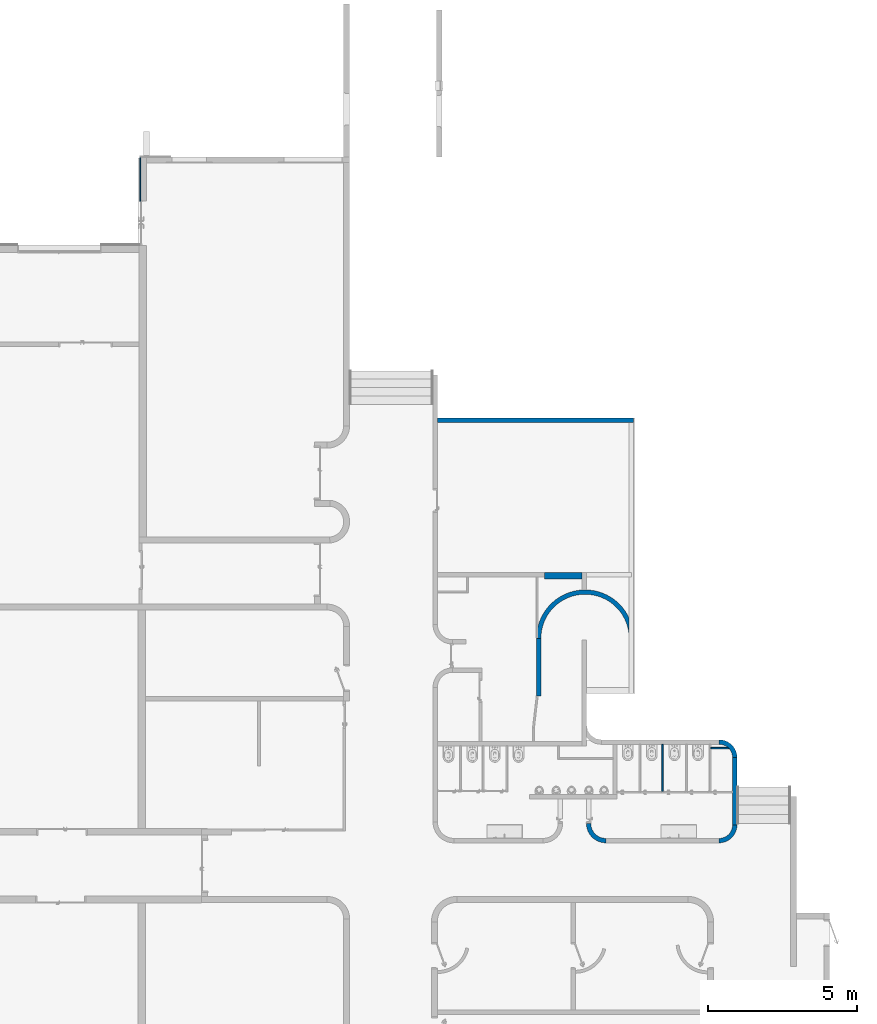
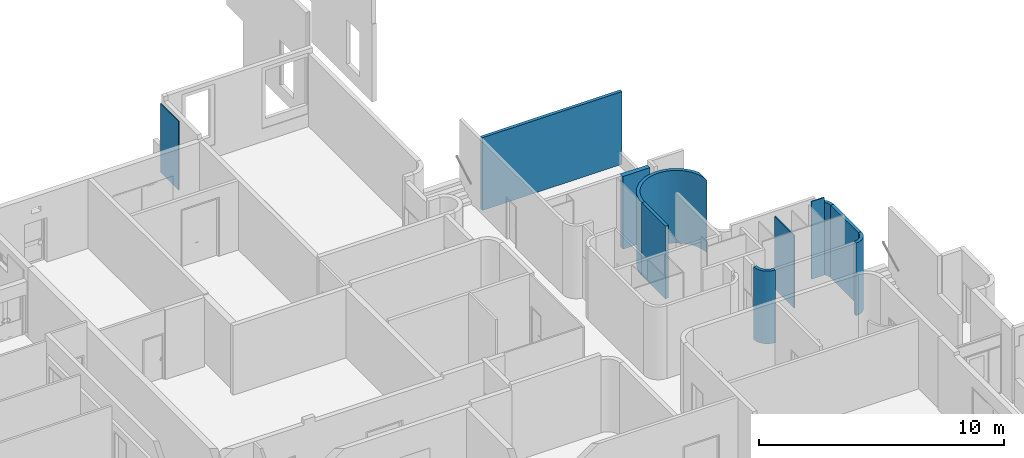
# One storey, part 7 of 9: 11 walls.
"""IFC2X3 building model written with IfcOpenShell, lengths in metres."""

from ifc_helpers import new_model, entity, si_unit, converted_unit, derived_unit, direction, frame, frame_2d, origin, place, context, subcontext, project, spatial, polyline, circle_curve, parameter, trimmed, segment, composite_curve, rectangle, outline, extrude, clip, halfspace, bounded_halfspace, material, layer, layer_set, layer_usage, type_object, element, save


model = new_model("IFC2X3")

# Units and contexts
model_context = context("Model", 3, precision=1e-05, world=origin(), true_north=direction((6.12303176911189e-17, 1.0)))
body_context = subcontext(model_context, "Body", "Model", "MODEL_VIEW")
ifc_project = project(units=[si_unit("LENGTHUNIT", "METRE"), si_unit("AREAUNIT", "SQUARE_METRE"), si_unit("VOLUMEUNIT", "CUBIC_METRE"), converted_unit("PLANEANGLEUNIT", "DEGREE", entity("IfcRatioMeasure", 0.0174532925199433), si_unit("PLANEANGLEUNIT", "RADIAN"), dimensions=[0, 0, 0, 0, 0, 0, 0]), si_unit("MASSUNIT", "GRAM", prefix="KILO"), derived_unit("MASSDENSITYUNIT", [(si_unit("MASSUNIT", "GRAM", prefix="KILO"), 1), (si_unit("LENGTHUNIT", "METRE"), -3)]), derived_unit("MOMENTOFINERTIAUNIT", [(si_unit("LENGTHUNIT", "METRE"), 4)]), si_unit("TIMEUNIT", "SECOND"), si_unit("FREQUENCYUNIT", "HERTZ"), si_unit("THERMODYNAMICTEMPERATUREUNIT", "DEGREE_CELSIUS"), derived_unit("THERMALTRANSMITTANCEUNIT", [(si_unit("MASSUNIT", "GRAM", prefix="KILO"), 1), (si_unit("THERMODYNAMICTEMPERATUREUNIT", "KELVIN"), -1), (si_unit("TIMEUNIT", "SECOND"), -3)]), derived_unit("VOLUMETRICFLOWRATEUNIT", [(si_unit("LENGTHUNIT", "METRE"), 3), (si_unit("TIMEUNIT", "SECOND"), -1)]), si_unit("ELECTRICCURRENTUNIT", "AMPERE"), si_unit("ELECTRICVOLTAGEUNIT", "VOLT"), si_unit("POWERUNIT", "WATT"), si_unit("FORCEUNIT", "NEWTON", prefix="KILO"), si_unit("ILLUMINANCEUNIT", "LUX"), si_unit("LUMINOUSFLUXUNIT", "LUMEN"), si_unit("LUMINOUSINTENSITYUNIT", "CANDELA"), derived_unit("USERDEFINED", [(si_unit("MASSUNIT", "GRAM", prefix="KILO"), -1), (si_unit("LENGTHUNIT", "METRE"), -2), (si_unit("TIMEUNIT", "SECOND"), 3), (si_unit("LUMINOUSFLUXUNIT", "LUMEN"), 1)]), derived_unit("LINEARVELOCITYUNIT", [(si_unit("LENGTHUNIT", "METRE"), 1), (si_unit("TIMEUNIT", "SECOND"), -1)]), si_unit("PRESSUREUNIT", "PASCAL"), derived_unit("USERDEFINED", [(si_unit("LENGTHUNIT", "METRE"), -2), (si_unit("MASSUNIT", "GRAM", prefix="KILO"), 1), (si_unit("TIMEUNIT", "SECOND"), -2)]), derived_unit("LINEARFORCEUNIT", [(si_unit("MASSUNIT", "GRAM", prefix="KILO"), 1), (si_unit("LENGTHUNIT", "METRE"), 1), (si_unit("TIMEUNIT", "SECOND"), -2), (si_unit("LENGTHUNIT", "METRE"), -1)]), derived_unit("PLANARFORCEUNIT", [(si_unit("MASSUNIT", "GRAM", prefix="KILO"), 1), (si_unit("LENGTHUNIT", "METRE"), 1), (si_unit("TIMEUNIT", "SECOND"), -2), (si_unit("LENGTHUNIT", "METRE"), -2)])], contexts=[model_context])

# Site, building, storey
site_placement = place(None, origin())
site = spatial("IfcSite", under=ifc_project, at=site_placement, Name="Default", CompositionType="ELEMENT")
building_placement = place(site_placement, origin())
building = spatial("IfcBuilding", under=site, at=building_placement, CompositionType="ELEMENT")
storey_placement = place(building_placement, frame((0.0, 0.0, 0.253308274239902)))
storey = spatial("IfcBuildingStorey", under=building, at=storey_placement, Name="Niveau 00 - 01", CompositionType="ELEMENT", Elevation=0.253308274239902)

# Walls
ifc_material_1 = material(Name="Maçonnerie - Voile BA")
ifc_layer_1 = layer(ifc_material_1, 0.15)
ifc_layer_set_1 = layer_set([ifc_layer_1], Name="Mur de base:Ext. Voile BA 150")
ifc_layer_usage_1 = layer_usage(ifc_layer_set_1, "AXIS2", "NEGATIVE", 0.075)
wall_type_1 = type_object("IfcWallType", Name="Mur de base:Ext. Voile BA 150", PredefinedType="STANDARD", material=ifc_layer_set_1)
wall_1_placement = place(storey_placement, frame((-15.7939891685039, 1.94594568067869, 0.0)))
element("IfcWallStandardCase", 1, at=wall_1_placement, inside=storey, type_object=wall_type_1, material=ifc_layer_usage_1, Name="Mur de base:Ext. Voile BA 150", ObjectType="Mur de base:Ext. Voile BA 150", context=body_context, shape_type="Clipping", body=[
    clip(extrude(rectangle(XDim=6.58000000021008, YDim=0.15, at=frame_2d((3.29000000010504, -3.46944695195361e-17), x_axis=(-1.0, 0.0))), origin(), (0.0, 0.0, 1.0), 3.61856448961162), bounded_halfspace(frame((0.0, -0.075, 3.61856448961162), z_axis=(0.0, 0.0, -1.0), x_axis=(0.0, 1.0, 0.0)), True, frame((0.0, -0.075, 3.61856448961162)), polyline([(0.0, 0.0), (6.43000000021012, 0.0), (6.43000000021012, 0.149999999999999), (0.0, 0.15), (0.0, 0.0)]))),
])
ifc_layer_usage_2 = layer_usage(ifc_layer_set_1, "AXIS2", "POSITIVE", -0.075)
wall_2_placement = place(storey_placement, frame((-6.34398917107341, -12.1541151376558, 0.0), z_axis=(0.0, 0.0, 1.0), x_axis=(0.0, -1.0, 0.0)))
element("IfcWallStandardCase", 2, at=wall_2_placement, inside=storey, type_object=wall_type_1, material=ifc_layer_usage_2, Name="Mur de base:Ext. Voile BA 150", ObjectType="Mur de base:Ext. Voile BA 150", context=body_context, shape_type="Clipping", body=[
    clip(extrude(outline(composite_curve([segment(trimmed(circle_curve(frame_2d((-0.525000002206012, 0.0), x_axis=(1.0, 0.0)), 0.450000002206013), [parameter(3.51601414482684e-08)], [parameter(90.0000000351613)], True, "PARAMETER"), False, "CONTINUOUS"), segment(polyline([(-0.0749999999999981, 0.0), (0.0750000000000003, 0.0)]), True, "CONTINUOUS"), segment(trimmed(circle_curve(frame_2d((-0.525000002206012, 0.0), x_axis=(1.0, 0.0)), 0.600000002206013), [parameter(3.51601531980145e-08)], [parameter(90.0000000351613)], True, "PARAMETER"), True, "CONTINUOUS"), segment(polyline([(-0.525000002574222, 0.600000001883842), (-0.525000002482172, 0.450000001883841)]), True, "CONTINUOUS")], self_intersect=False)), origin(), (0.0, 0.0, 1.0), 3.61856448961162), halfspace(frame((-0.525000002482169, 0.450000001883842, 3.61856448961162), z_axis=(0.0, 0.0, -1.0), x_axis=(-1.0, 0.0, 0.0)), True)),
])
ifc_layer_usage_3 = layer_usage(ifc_layer_set_1, "AXIS2", "POSITIVE", -0.075)
wall_3_placement = place(storey_placement, frame((-10.1479692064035, -12.1541151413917, 0.0), z_axis=(0.0, 0.0, 1.0), x_axis=(0.0, -1.0, 0.0)))
element("IfcWallStandardCase", 3, at=wall_3_placement, inside=storey, type_object=wall_type_1, material=ifc_layer_usage_3, Name="Mur de base:Ext. Voile BA 150", ObjectType="Mur de base:Ext. Voile BA 150", context=body_context, shape_type="Clipping", body=[
    clip(extrude(outline(composite_curve([segment(trimmed(circle_curve(frame_2d((-0.575000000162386, 0.0), x_axis=(1.0, 0.0)), 0.650000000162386), [parameter(269.999999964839)], [parameter(359.99999996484)], True, "PARAMETER"), True, "CONTINUOUS"), segment(polyline([(0.0750000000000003, 0.0), (-0.0750000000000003, 0.0)]), True, "CONTINUOUS"), segment(trimmed(circle_curve(frame_2d((-0.575000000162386, 0.0), x_axis=(1.0, 0.0)), 0.500000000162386), [parameter(269.999999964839)], [parameter(359.99999996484)], True, "PARAMETER"), False, "CONTINUOUS"), segment(polyline([(-0.575000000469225, -0.499999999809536), (-0.575000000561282, -0.649999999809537)]), True, "CONTINUOUS")], self_intersect=False)), origin(), (0.0, 0.0, 1.0), 3.61856448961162), halfspace(frame((-0.575000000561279, -0.649999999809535, 3.61856448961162), z_axis=(0.0, 0.0, -1.0), x_axis=(-1.0, 0.0, 0.0)), True)),
])
ifc_layer_usage_4 = layer_usage(ifc_layer_set_1, "AXIS2", "NEGATIVE", 0.075)
wall_4_placement = place(storey_placement, frame((-5.81898916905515, -9.36957862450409, 0.0), z_axis=(0.0, 0.0, 1.0), x_axis=(0.0, -1.0, 0.0)))
element("IfcWallStandardCase", 4, at=wall_4_placement, inside=storey, type_object=wall_type_1, material=ifc_layer_usage_4, Name="Mur de base:Ext. Voile BA 150", ObjectType="Mur de base:Ext. Voile BA 150", context=body_context, shape_type="Clipping", body=[
    clip(extrude(rectangle(XDim=2.25953651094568, YDim=0.150000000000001, at=frame_2d((1.12976825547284, 2.98372437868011e-16), x_axis=(-1.0, 0.0))), origin(), (0.0, 0.0, 1.0), 3.61856448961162), bounded_halfspace(frame((0.0, -0.0749999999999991, 3.61856448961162), z_axis=(0.0, 0.0, -1.0), x_axis=(-1.0, 0.0, 0.0)), True, frame((0.0, -0.0749999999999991, 3.61856448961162)), polyline([(0.0, 0.0), (2.25953651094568, 0.0), (2.25953651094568, 0.15), (0.0, 0.149999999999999), (0.0, 0.0)]))),
])
ifc_layer_usage_5 = layer_usage(ifc_layer_set_1, "AXIS2", "NEGATIVE", 0.075)
wall_5_placement = place(storey_placement, frame((-5.81898602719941, -9.36957862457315, 0.0)))
element("IfcWallStandardCase", 5, at=wall_5_placement, inside=storey, type_object=wall_type_1, material=ifc_layer_usage_5, Name="Mur de base:Ext. Voile BA 150", ObjectType="Mur de base:Ext. Voile BA 150", context=body_context, shape_type="Clipping", body=[
    clip(extrude(outline(composite_curve([segment(trimmed(circle_curve(frame_2d((-0.523323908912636, 0.0), x_axis=(1.0, 0.0)), 0.448323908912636), [parameter(5.08888749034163e-14)], [parameter(90.0000002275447)], True, "PARAMETER"), False, "CONTINUOUS"), segment(polyline([(-0.0750000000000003, 0.0), (0.0750000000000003, 0.0)]), True, "CONTINUOUS"), segment(trimmed(circle_curve(frame_2d((-0.523323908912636, 0.0), x_axis=(1.0, 0.0)), 0.598323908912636), [parameter(3.7764648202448e-14)], [parameter(90.0000002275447)], True, "PARAMETER"), True, "CONTINUOUS"), segment(polyline([(-0.52332391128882, 0.598323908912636), (-0.523323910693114, 0.448323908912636)]), True, "CONTINUOUS")], self_intersect=False)), origin(), (0.0, 0.0, 1.0), 3.61856448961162), halfspace(frame((-0.52332391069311, 0.448323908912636, 3.61856448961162), z_axis=(0.0, 0.0, -1.0), x_axis=(0.0, 1.0, 0.0)), True)),
])
ifc_layer_usage_6 = layer_usage(ifc_layer_set_1, "AXIS2", "NEGATIVE", 0.075)
wall_6_placement = place(storey_placement, frame((-9.289052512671, -5.30521863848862, 0.0), z_axis=(0.0, 0.0, 1.0), x_axis=(-0.580872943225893, 0.813994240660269, 0.0)))
element("IfcWallStandardCase", 6, at=wall_6_placement, inside=storey, type_object=wall_type_1, material=ifc_layer_usage_6, Name="Mur de base:Ext. Voile BA 150", ObjectType="Mur de base:Ext. Voile BA 150", context=body_context, shape_type="SweptSolid", body=[
    extrude(outline(composite_curve([segment(trimmed(circle_curve(frame_2d((0.85048315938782, 1.30180774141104), x_axis=(1.0, 0.0)), 1.48), [parameter(236.843039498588)], [parameter(54.4880357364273)], True, "PARAMETER"), False, "CONTINUOUS"), segment(polyline([(0.0410200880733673, 0.062788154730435), (0.549681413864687, -0.300196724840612)]), True, "CONTINUOUS"), segment(polyline([(0.549681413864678, -0.300196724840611), (0.686986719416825, -0.319971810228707)]), True, "CONTINUOUS"), segment(polyline([(0.686986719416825, -0.319971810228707), (0.825475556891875, -0.328000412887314)]), True, "CONTINUOUS"), segment(polyline([(0.825475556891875, -0.328000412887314), (0.964145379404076, -0.324224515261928)]), True, "CONTINUOUS"), segment(polyline([(0.964145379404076, -0.324224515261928), (1.10199167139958, -0.308671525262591)]), True, "CONTINUOUS"), segment(polyline([(1.10199167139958, -0.308671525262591), (1.23801605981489, -0.281454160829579)]), True, "CONTINUOUS"), segment(polyline([(1.23801605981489, -0.281454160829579), (1.37123337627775, -0.242769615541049)]), True, "CONTINUOUS"), segment(polyline([(1.37123337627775, -0.242769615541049), (1.50067879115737, -0.19289812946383)]), True, "CONTINUOUS"), segment(polyline([(1.50067879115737, -0.19289812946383), (1.62541480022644, -0.132200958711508)]), True, "CONTINUOUS"), segment(polyline([(1.62541480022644, -0.132200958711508), (1.74453801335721, -0.0611177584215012)]), True, "CONTINUOUS"), segment(polyline([(1.74453801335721, -0.0611177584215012), (1.85718569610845, 0.0198366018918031)]), True, "CONTINUOUS"), segment(polyline([(1.85718569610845, 0.0198366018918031), (1.96254201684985, 0.110075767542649)]), True, "CONTINUOUS"), segment(polyline([(1.96254201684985, 0.110075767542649), (2.05984395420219, 0.208946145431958)]), True, "CONTINUOUS"), segment(polyline([(2.05984395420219, 0.208946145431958), (2.1483895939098, 0.31573814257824)]), True, "CONTINUOUS"), segment(polyline([(2.1483895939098, 0.31573814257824), (2.19238049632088, 0.37649074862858)]), True, "CONTINUOUS"), segment(polyline([(2.19238049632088, 0.37649074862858), (2.23355237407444, 0.439244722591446)]), True, "CONTINUOUS"), segment(polyline([(2.23355237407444, 0.439244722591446), (2.30090420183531, 0.558047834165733)]), True, "CONTINUOUS"), segment(polyline([(2.30090420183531, 0.558047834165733), (2.35807638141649, 0.682079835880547)]), True, "CONTINUOUS"), segment(polyline([(2.35807638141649, 0.682079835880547), (2.40466452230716, 0.810462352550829)]), True, "CONTINUOUS"), segment(polyline([(2.40466452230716, 0.810462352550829), (2.44034163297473, 0.942294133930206)]), True, "CONTINUOUS"), segment(polyline([(2.44034163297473, 0.942294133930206), (2.46485730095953, 1.07664972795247)]), True, "CONTINUOUS"), segment(polyline([(2.46485730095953, 1.07664972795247), (2.47803944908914, 1.21258597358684)]), True, "CONTINUOUS"), segment(polyline([(2.47803944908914, 1.21258597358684), (2.47979554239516, 1.34914861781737)]), True, "CONTINUOUS"), segment(polyline([(2.47979554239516, 1.34914861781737), (2.47011323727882, 1.48537901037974)]), True, "CONTINUOUS"), segment(polyline([(2.47011323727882, 1.48537901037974), (2.44906046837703, 1.62032082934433)]), True, "CONTINUOUS"), segment(polyline([(2.44906046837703, 1.62032082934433), (2.41678497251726, 1.75302679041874)]), True, "CONTINUOUS"), segment(polyline([(2.41678497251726, 1.75302679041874), (2.37351325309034, 1.88256529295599)]), True, "CONTINUOUS"), segment(polyline([(2.37351325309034, 1.88256529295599), (2.3195489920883, 2.00802695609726)]), True, "CONTINUOUS"), segment(polyline([(2.3195489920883, 2.00802695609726), (2.25527092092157, 2.12853099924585)]), True, "CONTINUOUS"), segment(polyline([(2.25527092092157, 2.12853099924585), (2.18113016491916, 2.24323142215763)]), True, "CONTINUOUS"), segment(polyline([(2.18113016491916, 2.24323142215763), (2.09764708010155, 2.35132294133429)]), True, "CONTINUOUS"), segment(polyline([(2.09764708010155, 2.35132294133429), (2.00540760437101, 2.45204664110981)]), True, "CONTINUOUS"), segment(polyline([(2.00540760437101, 2.45204664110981), (1.90505947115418, 2.5446950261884)]), True, "CONTINUOUS"), segment(polyline([(1.90505947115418, 2.5446950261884), (1.79730605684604, 2.62861835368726)]), True, "CONTINUOUS"), segment(polyline([(1.79730605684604, 2.62861835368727), (1.71017511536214, 2.50651921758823)]), True, "CONTINUOUS")], self_intersect=False)), origin(), (0.0, 0.0, 1.0), 3.61856448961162),
])
ifc_layer_usage_7 = layer_usage(ifc_layer_set_1, "AXIS2", "NEGATIVE", 0.075)
wall_7_placement = place(storey_placement, frame((-12.3977391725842, -5.36911513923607, 0.0), z_axis=(0.0, 0.0, 1.0), x_axis=(0.0, -1.0, 0.0)))
element("IfcWallStandardCase", 7, at=wall_7_placement, inside=storey, type_object=wall_type_1, material=ifc_layer_usage_7, Name="Mur de base:Ext. Voile BA 150", ObjectType="Mur de base:Ext. Voile BA 150", context=body_context, shape_type="Clipping", body=[
    clip(extrude(rectangle(XDim=1.93304158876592, YDim=0.150000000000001, at=frame_2d((0.966520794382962, 0.0), x_axis=(-1.0, 0.0))), origin(), (0.0, 0.0, 1.0), 3.61856448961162), bounded_halfspace(frame((0.0, -0.0750000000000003, 3.61856448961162), z_axis=(0.0, 0.0, -1.0), x_axis=(-1.0, 0.0, 0.0)), True, frame((0.0, -0.0750000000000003, 3.61856448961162)), polyline([(0.0, 0.0), (1.92698496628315, 0.0), (1.93304158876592, 0.0), (1.93304158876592, 0.0492869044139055), (1.93304158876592, 0.148749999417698), (0.00466506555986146, 0.148749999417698), (0.0, 0.148749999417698), (0.0, 0.0)]))),
])
ifc_material_2 = material(Name="Mur par défaut")
ifc_layer_2 = layer(ifc_material_2, 0.05)
ifc_layer_set_2 = layer_set([ifc_layer_2], Name="Mur de base:@_Générique - Int. 50 mm")
ifc_layer_usage_8 = layer_usage(ifc_layer_set_2, "AXIS2", "NEGATIVE", 0.025)
wall_type_2 = type_object("IfcWallType", Name="Mur de base:@_Générique - Int. 50 mm", PredefinedType="STANDARD", material=ifc_layer_set_2)
wall_8_placement = place(storey_placement, frame((-8.23682670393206, -10.5024520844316, 0.0), z_axis=(0.0, 0.0, 1.0), x_axis=(0.0, 1.0, 0.0)))
element("IfcWallStandardCase", 8, at=wall_8_placement, inside=storey, type_object=wall_type_2, material=ifc_layer_usage_8, Name="Mur de base:@_Générique - Int. 50 mm", ObjectType="Mur de base:@_Générique - Int. 50 mm", context=body_context, shape_type="Clipping", body=[
    clip(extrude(rectangle(XDim=1.58119422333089, YDim=0.0499999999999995, at=frame_2d((0.790597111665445, 0.0), x_axis=(-1.0, 0.0))), origin(), (0.0, 0.0, 1.0), 3.61856448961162), bounded_halfspace(frame((0.0, -0.0250000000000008, 3.61856448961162), z_axis=(0.0, 0.0, -1.0), x_axis=(1.0, 0.0, 0.0)), True, frame((0.0, -0.0250000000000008, 3.61856448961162)), polyline([(0.0, 0.0), (1.58119422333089, 0.0), (1.58119422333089, 0.0500000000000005), (0.0, 0.0500000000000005), (0.0, 0.0)]))),
])
ifc_layer_usage_9 = layer_usage(ifc_layer_set_2, "AXIS2", "NEGATIVE", 0.025)
wall_9_placement = place(storey_placement, frame((-6.61904117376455, -9.04938812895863, 0.0)))
element("IfcWallStandardCase", 9, at=wall_9_placement, inside=storey, type_object=wall_type_2, material=ifc_layer_usage_9, Name="Mur de base:@_Générique - Int. 50 mm", ObjectType="Mur de base:@_Générique - Int. 50 mm", context=body_context, shape_type="SweptSolid", body=[
    extrude(outline(composite_curve([segment(trimmed(circle_curve(frame_2d((0.276731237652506, -0.320190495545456), x_axis=(1.0, 0.0)), 0.448323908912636), [parameter(41.1803445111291)], [parameter(50.3501004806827)], True, "PARAMETER"), True, "CONTINUOUS"), segment(polyline([(0.562804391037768, 0.0250000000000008), (0.0, 0.0249999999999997)]), True, "CONTINUOUS"), segment(polyline([(0.0, 0.0250000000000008), (0.0, -0.0249999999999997)]), True, "CONTINUOUS"), segment(polyline([(0.0, -0.0250000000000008), (0.614158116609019, -0.0250000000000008)]), True, "CONTINUOUS")], self_intersect=False)), origin(), (0.0, 0.0, 1.0), 3.86856448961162),
])
ifc_material_3 = material(Name="Finition vertical béton")
ifc_layer_3 = layer(ifc_material_3, 0.04)
ifc_layer_set_3 = layer_set([ifc_layer_3], Name="Mur de base:Mur EXE 40- Hach")
ifc_layer_usage_10 = layer_usage(ifc_layer_set_3, "AXIS2", "NEGATIVE", 0.02)
wall_type_3 = type_object("IfcWallType", Name="Mur de base:Mur EXE 40- Hach", PredefinedType="STANDARD", material=ifc_layer_set_3)
wall_10_placement = place(storey_placement, frame((-25.7739891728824, 9.30767895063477, 0.0), z_axis=(0.0, 0.0, 1.0), x_axis=(0.0, 1.0, 0.0)))
element("IfcWallStandardCase", 10, at=wall_10_placement, inside=storey, type_object=wall_type_3, material=ifc_layer_usage_10, Name="Mur de base:Mur EXE 40- Hach", ObjectType="Mur de base:Mur EXE 40- Hach", context=body_context, shape_type="SweptSolid", body=[
    extrude(rectangle(XDim=1.47320590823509, YDim=0.0399999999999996, at=frame_2d((0.736602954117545, 0.0), x_axis=(-1.0, 0.0))), origin(), (0.0, 0.0, 1.0), 3.41856448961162),
])
ifc_layer_4 = layer(ifc_material_2, 0.22)
ifc_layer_set_4 = layer_set([ifc_layer_4], Name="Mur de base:@_Générique - Int. 220 mm")
ifc_layer_usage_11 = layer_usage(ifc_layer_set_4, "AXIS2", "NEGATIVE", 0.11)
wall_type_4 = type_object("IfcWallType", Name="Mur de base:@_Générique - Int. 220 mm", PredefinedType="STANDARD", material=ifc_layer_set_4)
wall_11_placement = place(storey_placement, frame((-12.2063653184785, -3.26911513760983, 0.0)))
element("IfcWallStandardCase", 11, at=wall_11_placement, inside=storey, type_object=wall_type_4, material=ifc_layer_usage_11, Name="Mur de base:@_Générique - Int. 220 mm", ObjectType="Mur de base:@_Générique - Int. 220 mm", context=body_context, shape_type="Clipping", body=[
    clip(extrude(rectangle(XDim=1.26237614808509, YDim=0.22, at=frame_2d((0.631188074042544, 0.0), x_axis=(-1.0, 0.0))), origin(), (0.0, 0.0, 1.0), 3.61856448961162), bounded_halfspace(frame((0.0, -0.11, 3.61856448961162), z_axis=(0.0, 0.0, -1.0), x_axis=(0.0, 1.0, 0.0)), True, frame((0.0, -0.11, 3.61856448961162)), polyline([(0.0, 0.0), (1.26237614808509, 0.0), (1.26237614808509, 0.22), (0.0, 0.22), (0.0, 0.0699999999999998), (0.0, 0.0)]))),
])

save(model, "model.ifc")
